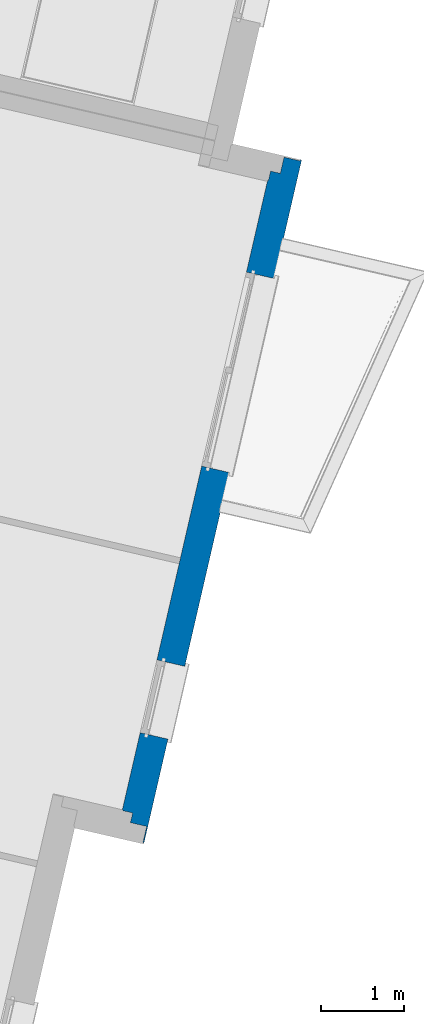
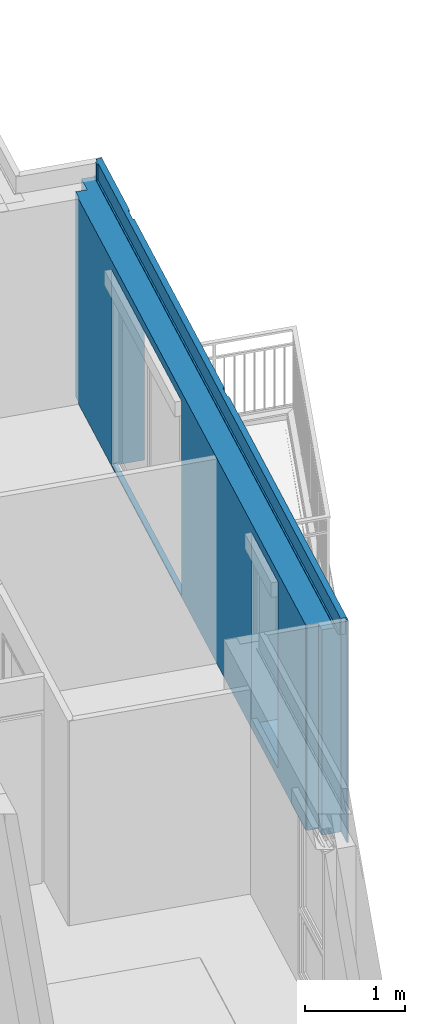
# One storey, part 24 of 91: 1 wall, 2 openings.
"""IFC2X3 building model written with IfcOpenShell, lengths in metres."""

from ifc_helpers import new_model, entity, si_unit, converted_unit, derived_unit, money_unit, direction, frame, origin_with_axes, place, context, subcontext, project, spatial, faceted_brep, material, material_list, type_object, element, save


model = new_model("IFC2X3")

# Units and contexts
model_context = context("Model", 3, precision=1e-05, world=origin_with_axes(), true_north=direction((0.0, 1.0)))
body_context = subcontext(model_context, "Body", "Model", "MODEL_VIEW")
ifc_project = project(units=[si_unit("LENGTHUNIT", "METRE"), si_unit("AREAUNIT", "SQUARE_METRE"), si_unit("VOLUMEUNIT", "CUBIC_METRE"), converted_unit("PLANEANGLEUNIT", "DEGREE", entity("IfcPlaneAngleMeasure", 0.0174532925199), si_unit("PLANEANGLEUNIT", "RADIAN"), dimensions=[0, 0, 0, 0, 0, 0, 0]), si_unit("SOLIDANGLEUNIT", "STERADIAN"), money_unit("EUR"), converted_unit("TIMEUNIT", "Year", entity("IfcTimeMeasure", 31556926.0), si_unit("TIMEUNIT", "SECOND"), dimensions=[0, 0, 1, 0, 0, 0, 0]), si_unit("MASSUNIT", "GRAM", prefix="KILO"), si_unit("THERMODYNAMICTEMPERATUREUNIT", "DEGREE_CELSIUS"), si_unit("LUMINOUSINTENSITYUNIT", "LUMEN"), si_unit("ENERGYUNIT", "JOULE", prefix="MEGA"), derived_unit("THERMALCONDUCTANCEUNIT", [(si_unit("POWERUNIT", "WATT"), 1), (si_unit("LENGTHUNIT", "METRE"), -1), (si_unit("THERMODYNAMICTEMPERATUREUNIT", "KELVIN"), -1)]), derived_unit("SPECIFICHEATCAPACITYUNIT", [(si_unit("ENERGYUNIT", "JOULE"), 1), (si_unit("MASSUNIT", "GRAM", prefix="KILO"), -1), (si_unit("THERMODYNAMICTEMPERATUREUNIT", "KELVIN"), -1)]), derived_unit("MASSDENSITYUNIT", [(si_unit("MASSUNIT", "GRAM", prefix="KILO"), 1), (si_unit("VOLUMEUNIT", "CUBIC_METRE"), -1)])], contexts=[model_context])

# Site, building, storey
site_placement = place(None, origin_with_axes())
site = spatial("IfcSite", under=ifc_project, at=site_placement, Name="Site", CompositionType="ELEMENT")
building_placement = place(site_placement, origin_with_axes())
building = spatial("IfcBuilding", under=site, at=building_placement, Name="Bâtiment", CompositionType="ELEMENT")
storey_placement = place(building_placement, frame((0.0, 0.0, 5.44), z_axis=(0.0, 0.0, 1.0), x_axis=(1.0, 0.0, 0.0)))
storey = spatial("IfcBuildingStorey", under=building, at=storey_placement, Name="R+2", CompositionType="ELEMENT", Elevation=5.44)

# Wall, openings
ifc_material_1 = material(Name="Finition ext - Crépis")
ifc_material_2 = material(Name="Béton cellulaire")
ifc_material_3 = material(Name="Mortier")
ifc_material_4 = material(Name="Isolation - Polystyrène expansé")
ifc_material_5 = material(Name="Bloc ELITHERM")
ifc_material_6 = material(Name="Isolation - Polystyrène extrudé")
ifc_material_7 = material(Name="Finition int - Plaque de plâtre")
ifc_material_list = material_list([ifc_material_1, ifc_material_2, ifc_material_3, ifc_material_4, ifc_material_5, ifc_material_6, ifc_material_7])
wall_type = type_object("IfcWallType", Name="Mur ALKERN + planelle 21 345 x 2720", PredefinedType="USERDEFINED")
wall_placement = place(storey_placement, frame((-1.22070172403, 2.38957520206, 0.0), z_axis=(0.0, 0.0, 1.0), x_axis=(-0.22487619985, -0.974387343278, 0.0)))
wall = element("IfcWall", 1, at=wall_placement, inside=storey, type_object=wall_type, material=ifc_material_list, Name="Mue bloc ALKERN isolé", ObjectType="SOLIDWALL", context=body_context, shape_type="Brep", body=[
    faceted_brep([(1.46826315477, 0.0, 0.02), (1.46826315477, 0.0, 0.0), (1.12826315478, 0.0, 0.0), (1.11828262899, 0.0, 0.0106237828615), (0.978243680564, 0.0, 0.0193762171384), (0.968263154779, 0.0, 0.01), (0.968263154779, 0.0, 0.0), (7.0035515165e-09, 0.0, 0.0), (7.0035515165e-09, 0.0, 2.72), (0.968263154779, 0.0, 2.72), (0.968263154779, 0.0, 2.51999999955), (0.968263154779, 0.0, 2.50999999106), (0.968263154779, 0.0, 2.50872065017), (0.968263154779, 0.0, 2.5), (0.983263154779, 0.0, 2.5), (1.00300413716, 0.0, 2.5), (1.12826315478, 0.0, 2.5), (1.12826315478, 0.0, 2.50872065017), (1.12826315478, 0.0, 2.50999999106), (1.12826315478, 0.0, 2.51999999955), (1.12826315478, 0.0, 2.72), (4.20826315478, 0.0, 2.72), (4.20826315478, 0.0, 2.51999999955), (4.20826315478, 0.0, 2.50999999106), (4.20826315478, 0.0, 2.50872065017), (4.20826315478, 0.0, 2.5), (4.33352217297, 0.0, 2.5), (4.35326315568, 0.0, 2.5), (4.36826315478, 0.0, 2.5), (4.36826315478, 0.0, 2.50872065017), (4.36826315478, 0.0, 2.50999999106), (4.36826315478, 0.0, 2.51999999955), (4.36826315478, 0.0, 2.72), (8.45160944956, 0.0, 2.72), (8.45160944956, 0.0, 2.51999999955), (8.45160944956, 0.0, 2.50999999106), (8.45160944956, 0.0, 0.0), (4.36826315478, 0.0, 0.0), (4.36826315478, 0.0, 0.01), (4.35828262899, 0.0, 0.0193762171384), (4.21824368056, 0.0, 0.0106237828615), (4.20826315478, 0.0, 0.0), (3.86826315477, 0.0, 0.0), (3.86826315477, 0.0, 0.02), (3.86826315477, 0.0, 2.22), (1.46826315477, 0.0, 2.22), (7.16748923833, 0.0, 0.06), (7.16748923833, 0.0, 0.12), (7.16748923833, 0.0, 2.22), (6.26748923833, 0.0, 2.22), (6.26748923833, 0.0, 0.12), (6.26748923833, 0.0, 0.06), (1.46826315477, -0.0149999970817, 0.02), (1.46826315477, -0.0149999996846, 0.0), (1.12826315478, -0.0150000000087, 0.0), (1.11828262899, -0.0150000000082, 0.0106237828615), (0.978243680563, -0.0150000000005, 0.0193762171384), (0.968263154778, -0.015, 0.01), (0.968263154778, -0.015, 0.0), (6.9957155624e-09, -0.0149999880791, 0.0), (6.9957155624e-09, -0.0149999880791, 2.72), (0.968263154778, -0.015, 2.72), (0.968263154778, -0.015, 2.51999999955), (0.968263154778, -0.015, 2.50999999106), (0.968263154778, -0.015, 2.50872065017), (0.968263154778, -0.015, 2.5), (0.983263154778, -0.0150000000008, 2.5), (1.00300413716, -0.0150000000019, 2.5), (1.12826315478, -0.0150000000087, 2.5), (1.12826315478, -0.0150000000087, 2.50872065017), (1.12826315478, -0.0150000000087, 2.50999999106), (1.12826315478, -0.0150000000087, 2.51999999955), (1.12826315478, -0.0150000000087, 2.72), (4.20826315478, -0.014999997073, 2.72), (4.20826315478, -0.014999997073, 2.51999999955), (4.20826315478, -0.014999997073, 2.50999999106), (4.20826315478, -0.014999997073, 2.50872065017), (4.20826315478, -0.014999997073, 2.5), (4.33352217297, -0.0149999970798, 2.5), (4.35326315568, -0.0149999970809, 2.5), (4.36826315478, -0.0149999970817, 2.5), (4.36826315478, -0.0149999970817, 2.50872065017), (4.36826315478, -0.0149999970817, 2.50999999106), (4.36826315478, -0.0149999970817, 2.51999999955), (4.36826315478, -0.0149999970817, 2.72), (8.45160944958, -0.0149999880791, 2.72), (8.45160944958, -0.0149999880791, 2.51999999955), (8.45160944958, -0.0149999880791, 2.50999999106), (8.45160944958, -0.0149999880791, 0.0), (4.36826315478, -0.0149999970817, 0.0), (4.36826315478, -0.0149999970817, 0.01), (4.35828262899, -0.0149999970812, 0.0193762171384), (4.21824368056, -0.0149999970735, 0.0106237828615), (4.20826315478, -0.014999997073, 0.0), (3.86826315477, -0.0149999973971, 0.0), (3.86826315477, -0.0149999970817, 0.02), (3.86826315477, -0.0149999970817, 2.22), (1.46826315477, -0.0149999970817, 2.22), (7.16748923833, -0.0149999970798, 0.06), (7.16748923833, -0.014999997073, 0.12), (7.16748923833, -0.014999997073, 2.22), (6.26748923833, -0.014999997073, 2.22), (6.26748923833, -0.014999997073, 0.12), (6.26748923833, -0.0149999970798, 0.06)], [[[0, 1, 2, 3, 4, 5, 6, 7, 8, 9, 10, 11, 12, 13, 14, 15, 16, 17, 18, 19, 20, 21, 22, 23, 24, 25, 26, 27, 28, 29, 30, 31, 32, 33, 34, 35, 36, 37, 38, 39, 40, 41, 42, 43, 44, 45], [46, 47, 48, 49, 50, 51]], [[1, 0, 52, 53]], [[1, 53, 54, 2]], [[55, 3, 2, 54]], [[56, 4, 3, 55]], [[57, 5, 4, 56]], [[58, 6, 5, 57]], [[7, 6, 58, 59]], [[7, 59, 60, 8]], [[60, 61, 9, 8]], [[62, 10, 9, 61]], [[11, 10, 62, 63]], [[12, 11, 63, 64]], [[13, 12, 64, 65]], [[66, 14, 13, 65]], [[15, 14, 66, 67]], [[16, 15, 67, 68]], [[68, 69, 17, 16]], [[69, 70, 18, 17]], [[70, 71, 19, 18]], [[71, 72, 20, 19]], [[72, 73, 21, 20]], [[74, 22, 21, 73]], [[23, 22, 74, 75]], [[24, 23, 75, 76]], [[25, 24, 76, 77]], [[78, 26, 25, 77]], [[27, 26, 78, 79]], [[28, 27, 79, 80]], [[80, 81, 29, 28]], [[81, 82, 30, 29]], [[82, 83, 31, 30]], [[83, 84, 32, 31]], [[33, 32, 84, 85]], [[86, 34, 33, 85]], [[35, 34, 86, 87]], [[36, 35, 87, 88]], [[88, 89, 37, 36]], [[90, 38, 37, 89]], [[91, 39, 38, 90]], [[92, 40, 39, 91]], [[92, 93, 41, 40]], [[94, 42, 41, 93]], [[95, 43, 42, 94]], [[43, 95, 96, 44]], [[44, 96, 97, 45]], [[52, 0, 45, 97]], [[46, 98, 99, 47]], [[100, 48, 47, 99]], [[101, 49, 48, 100]], [[49, 101, 102, 50]], [[102, 103, 51, 50]], [[103, 98, 46, 51]], [[53, 52, 97, 96, 95, 94, 93, 92, 91, 90, 89, 88, 87, 86, 85, 84, 83, 82, 81, 80, 79, 78, 77, 76, 75, 74, 73, 72, 71, 70, 69, 68, 67, 66, 65, 64, 63, 62, 61, 60, 59, 58, 57, 56, 55, 54], [103, 102, 101, 100, 99, 98]]]),
    faceted_brep([(0.0149999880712, -0.015, 2.51999999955), (0.0149999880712, -0.015, 2.72), (8.40360943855, -0.015, 2.72), (8.40360943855, -0.015, 2.51999999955), (0.0149999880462, -0.0629999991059, 2.72), (0.0149999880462, -0.0629999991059, 2.51999999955), (8.4036094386, -0.0629999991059, 2.72), (8.4036094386, -0.0629999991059, 2.51999999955)], [[[0, 1, 2, 3]], [[4, 1, 0, 5]], [[1, 4, 6, 2]], [[3, 2, 6, 7]], [[5, 0, 3, 7]], [[4, 5, 7, 6]]]),
    faceted_brep([(0.0149999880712, -0.015, 2.50999999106), (0.0149999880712, -0.015, 2.51999999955), (8.38360943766, -0.015, 2.52), (8.38360943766, -0.015, 2.51), (0.0149999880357, -0.083, 2.51999999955), (0.0149999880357, -0.083, 2.50999999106), (8.38360943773, -0.083, 2.52), (8.38360943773, -0.083, 2.51)], [[[0, 1, 2, 3]], [[4, 1, 0, 5]], [[1, 4, 6, 2]], [[3, 2, 6, 7]], [[5, 0, 3, 7]], [[4, 5, 7, 6]]]),
    faceted_brep([(0.0999380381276, -0.0649033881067, 2.72), (8.38360943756, -0.0649033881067, 2.72), (8.38360943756, -0.0630000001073, 2.72), (0.062999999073, -0.0630000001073, 2.72), (0.0629999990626, -0.083000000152, 2.72), (0.0999380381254, -0.083000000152, 2.72), (0.0999380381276, -0.0649033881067, 2.51999999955), (8.38360943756, -0.0649033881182, 2.51999999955), (8.38360943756, -0.0630000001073, 2.51999999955), (0.062999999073, -0.0630000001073, 2.51999999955), (0.0629999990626, -0.083000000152, 2.51999999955), (0.0999380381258, -0.0830000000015, 2.51999999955)], [[[0, 1, 2, 3, 4, 5]], [[1, 0, 6, 7]], [[1, 7, 8, 2]], [[8, 9, 3, 2]], [[10, 4, 3, 9]], [[11, 5, 4, 10]], [[0, 5, 11, 6]], [[6, 11, 10, 9, 8, 7]]]),
    faceted_brep([(1.46826315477, -0.015, 0.02), (1.46826315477, -0.015, 0.0), (0.0149999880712, -0.015, 0.0), (0.0149999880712, -0.015, 2.50999999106), (8.2516094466, -0.015, 2.50999999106), (8.2516094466, -0.015, 0.0), (3.86826315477, -0.015, 0.0), (3.86826315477, -0.015, 0.02), (3.86826315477, -0.015, 2.22), (1.46826315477, -0.015, 2.22), (7.16748923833, -0.015, 0.06), (7.16748923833, -0.015, 0.12), (7.16748923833, -0.015, 2.22), (6.26748923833, -0.015, 2.22), (6.26748923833, -0.015, 0.12), (6.26748923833, -0.015, 0.06), (1.46826315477, -0.214999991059, 0.02), (1.46826315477, -0.214999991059, 0.0), (1.46826315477, -0.214999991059, 2.22), (0.0149999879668, -0.214999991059, 0.0), (0.0149999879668, -0.214999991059, 2.50999999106), (0.0149999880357, -0.0829999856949, 2.50999999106), (8.25160944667, -0.0829999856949, 2.50999999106), (8.25160944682, -0.214999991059, 2.50999999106), (8.25160944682, -0.214999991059, 0.0), (3.86826315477, -0.214999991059, 0.0), (3.86826315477, -0.214999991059, 0.02), (3.86826315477, -0.214999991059, 2.22), (7.16748923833, -0.214999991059, 0.06), (7.16748923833, -0.214999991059, 0.12), (7.16748923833, -0.214999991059, 2.22), (6.26748923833, -0.214999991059, 2.22), (6.26748923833, -0.214999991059, 0.12), (6.26748923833, -0.214999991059, 0.06)], [[[0, 1, 2, 3, 4, 5, 6, 7, 8, 9], [10, 11, 12, 13, 14, 15]], [[16, 17, 1, 0, 9, 18]], [[1, 17, 19, 2]], [[19, 20, 21, 3, 2]], [[3, 21, 22, 4]], [[23, 24, 5, 4, 22]], [[25, 6, 5, 24]], [[7, 6, 25, 26, 27, 8]], [[8, 27, 18, 9]], [[11, 10, 28, 29, 30, 12]], [[31, 13, 12, 30]], [[32, 33, 15, 14, 13, 31]], [[33, 28, 10, 15]], [[17, 16, 18, 27, 26, 25, 24, 23, 20, 19], [33, 32, 31, 30, 29, 28]], [[21, 20, 23, 22]]]),
    faceted_brep([(1.46826315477, -0.245, 0.02), (1.46826315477, -0.215000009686, 0.02), (1.46826315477, -0.215, 2.22), (1.46826315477, -0.245, 2.22), (1.46826315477, -0.215000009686, 0.0), (1.46826315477, -0.286, 0.02), (1.46826315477, -0.286, 0.0), (3.86826315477, -0.215000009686, 0.0), (3.86826315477, -0.215000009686, 0.02), (3.86826315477, -0.215, 2.22), (3.86826315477, -0.215, 2.4), (1.46826315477, -0.215, 2.4), (0.214999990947, -0.215000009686, 0.0), (0.214999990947, -0.215000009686, 2.50999999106), (8.13160942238, -0.215000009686, 2.51), (8.13160942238, -0.215000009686, 0.0), (6.26748923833, -0.215, 2.4), (6.26748923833, -0.215, 2.22), (6.26748923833, -0.215000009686, 0.12), (6.26748923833, -0.215000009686, 0.06), (7.16748923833, -0.215000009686, 0.06), (7.16748923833, -0.215000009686, 0.12), (7.16748923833, -0.215, 2.22), (7.16748923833, -0.215, 2.4), (1.46826315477, -0.335000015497, 2.4), (1.46826315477, -0.335000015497, 2.22), (1.46826315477, -0.335000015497, 0.02), (3.86826315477, -0.286, 0.02), (3.86826315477, -0.286, 0.0), (8.13160942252, -0.335000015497, 0.0), (0.214999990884, -0.335000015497, 0.0), (3.86826315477, -0.245, 0.02), (3.86826315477, -0.245, 2.22), (3.86826315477, -0.335000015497, 2.22), (3.86826315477, -0.335000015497, 2.4), (0.214999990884, -0.335000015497, 2.50999999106), (8.13160942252, -0.335000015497, 2.51), (6.26748923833, -0.335000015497, 2.4), (6.26748923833, -0.335000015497, 2.22), (6.26748923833, -0.245, 2.22), (6.26748923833, -0.245, 0.12), (6.26748923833, -0.286, 0.12), (6.26748923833, -0.286, 0.06), (7.16748923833, -0.286, 0.06), (7.16748923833, -0.286, 0.12), (7.16748923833, -0.245, 0.12), (7.16748923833, -0.245, 2.22), (7.16748923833, -0.335000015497, 2.22), (7.16748923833, -0.335000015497, 2.4), (6.26748923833, -0.335000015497, 0.12), (7.16748923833, -0.335000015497, 0.12), (3.86826315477, -0.335000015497, 0.02)], [[[0, 1, 2, 3]], [[4, 1, 0, 5, 6]], [[7, 8, 9, 10, 11, 2, 1, 4, 12, 13, 14, 15], [16, 17, 18, 19, 20, 21, 22, 23]], [[24, 25, 3, 2, 11]], [[5, 0, 3, 25, 26]], [[5, 27, 28, 6]], [[28, 7, 15, 29, 30, 12, 4, 6]], [[31, 8, 7, 28, 27]], [[8, 31, 32, 9]], [[32, 33, 34, 10, 9]], [[10, 34, 24, 11]], [[30, 35, 13, 12]], [[14, 13, 35, 36]], [[29, 15, 14, 36]], [[17, 16, 37, 38, 39]], [[40, 18, 17, 39]], [[41, 42, 19, 18, 40]], [[20, 19, 42, 43]], [[43, 44, 45, 21, 20]], [[21, 45, 46, 22]], [[23, 22, 46, 47, 48]], [[23, 48, 37, 16]], [[36, 35, 30, 29], [49, 38, 37, 48, 47, 50], [26, 25, 24, 34, 33, 51]], [[27, 5, 26, 51]], [[31, 27, 51, 33, 32]], [[38, 49, 41, 40, 39]], [[41, 44, 43, 42]], [[47, 46, 45, 44, 50]], [[44, 41, 49, 50]]]),
    faceted_brep([(8.12160945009, -0.335000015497, 0.0), (0.335000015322, -0.335000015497, 0.0), (0.335000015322, -0.335000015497, 2.51), (8.12160945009, -0.335000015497, 2.51), (7.16748923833, -0.335000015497, 2.22), (7.16748923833, -0.335000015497, 2.4), (6.26748923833, -0.335000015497, 2.4), (6.26748923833, -0.335000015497, 2.22), (6.26748923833, -0.335000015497, 0.12), (7.16748923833, -0.335000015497, 0.12), (3.86826315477, -0.335000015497, 2.22), (3.86826315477, -0.335000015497, 2.4), (1.46826315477, -0.335000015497, 2.4), (1.46826315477, -0.335000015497, 2.22), (1.46826315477, -0.335000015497, 0.02), (3.86826315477, -0.335000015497, 0.02), (8.1216094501, -0.34499998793, 0.0), (0.335000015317, -0.34499998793, 0.0), (0.335000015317, -0.34499998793, 2.51), (8.1216094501, -0.34499998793, 2.51), (7.16748923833, -0.34499998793, 2.22), (7.16748923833, -0.34499998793, 2.4), (6.26748923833, -0.34499998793, 2.4), (6.26748923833, -0.34499998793, 2.22), (6.26748923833, -0.34499998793, 0.12), (7.16748923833, -0.34499998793, 0.12), (3.86826315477, -0.34499998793, 2.22), (3.86826315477, -0.34499998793, 2.4), (1.46826315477, -0.34499998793, 2.4), (1.46826315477, -0.34499998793, 2.22), (1.46826315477, -0.34499998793, 0.02), (3.86826315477, -0.34499998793, 0.02)], [[[0, 1, 2, 3], [4, 5, 6, 7, 8, 9], [10, 11, 12, 13, 14, 15]], [[16, 17, 1, 0]], [[17, 18, 2, 1]], [[3, 2, 18, 19]], [[16, 0, 3, 19]], [[20, 21, 5, 4]], [[21, 22, 6, 5]], [[22, 23, 7, 6]], [[24, 8, 7, 23]], [[25, 9, 8, 24]], [[9, 25, 20, 4]], [[11, 10, 26, 27]], [[12, 11, 27, 28]], [[13, 12, 28, 29]], [[13, 29, 30, 14]], [[14, 30, 31, 15]], [[26, 10, 15, 31]], [[19, 18, 17, 16], [21, 20, 25, 24, 23, 22], [27, 26, 31, 30, 29, 28]]]),
])
opening_1_placement = place(wall_placement, frame((6.71748923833, 0.0, 0.12), z_axis=(0.0, 0.0, 1.0), x_axis=(1.0, 0.0, 0.0)))
element("IfcOpeningElement", 2, at=opening_1_placement, cuts=wall, Name="MEN 65", context=body_context, shape_type="Brep", body=[
    faceted_brep([(-0.45, -0.83499998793, 0.0), (-0.45, -0.83499998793, 2.1), (-0.45, -0.245, 2.1), (-0.45, -0.245, 0.0), (0.45, -0.83499998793, 0.0), (0.45, -0.83499998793, 2.1), (0.45, -0.245, 2.1), (0.45, -0.245, 0.0)], [[[0, 1, 2, 3]], [[0, 4, 5, 1]], [[1, 5, 6, 2]], [[3, 2, 6, 7]], [[4, 0, 3, 7]], [[5, 4, 7, 6]]]),
    faceted_brep([(-0.45, 0.34499998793, 0.0), (0.45, 0.34499998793, 0.0), (0.45, -0.245, 0.0), (-0.45, -0.245, 0.0), (-0.45, 0.34499998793, 2.1), (0.45, 0.34499998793, 2.1), (0.45, -0.245, 2.1), (-0.45, -0.245, 2.1)], [[[0, 1, 2, 3]], [[0, 4, 5, 1]], [[1, 5, 6, 2]], [[3, 2, 6, 7]], [[4, 0, 3, 7]], [[5, 4, 7, 6]]]),
    faceted_brep([(-0.45, 0.34499998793, 0.0), (0.45, 0.34499998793, 0.0), (0.45, -0.245, 0.0), (-0.45, -0.245, 0.0), (-0.45, 0.34499998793, 2.1), (0.45, 0.34499998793, 2.1), (0.45, -0.245, 2.1), (-0.45, -0.245, 2.1)], [[[0, 1, 2, 3]], [[0, 4, 5, 1]], [[1, 5, 6, 2]], [[3, 2, 6, 7]], [[4, 0, 3, 7]], [[5, 4, 7, 6]]]),
    faceted_brep([(-0.45, -0.80499998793, 2.1), (-0.45, -0.80499998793, 2.28), (-0.45, -0.215, 2.28), (-0.45, -0.215, 2.1), (0.45, -0.80499998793, 2.1), (0.45, -0.80499998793, 2.28), (0.45, -0.215, 2.28), (0.45, -0.215, 2.1)], [[[0, 1, 2, 3]], [[0, 4, 5, 1]], [[1, 5, 6, 2]], [[3, 2, 6, 7]], [[4, 0, 3, 7]], [[5, 4, 7, 6]]]),
    faceted_brep([(-0.45, 0.30399998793, 0.0), (-0.45, 0.30399998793, -0.06), (-0.45, -0.286, -0.06), (-0.45, -0.286, 0.0), (0.45, 0.30399998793, 0.0), (0.45, 0.30399998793, -0.06), (0.45, -0.286, -0.06), (0.45, -0.286, 0.0)], [[[0, 1, 2, 3]], [[0, 4, 5, 1]], [[1, 5, 6, 2]], [[3, 2, 6, 7]], [[4, 0, 3, 7]], [[5, 4, 7, 6]]]),
])
opening_2_placement = place(wall_placement, frame((2.66826315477, 0.0, 0.02), z_axis=(0.0, 0.0, 1.0), x_axis=(1.0, 0.0, 0.0)))
element("IfcOpeningElement", 3, at=opening_2_placement, cuts=wall, Name="MEN 66", context=body_context, shape_type="Brep", body=[
    faceted_brep([(-1.2, -0.245, 0.0), (1.2, -0.245, 0.0), (1.2, -0.83499998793, 0.0), (-1.2, -0.83499998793, 0.0), (-1.2, -0.245, 2.2), (1.2, -0.245, 2.2), (1.2, -0.83499998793, 2.2), (-1.2, -0.83499998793, 2.2)], [[[0, 1, 2, 3]], [[0, 4, 5, 1]], [[1, 5, 6, 2]], [[3, 2, 6, 7]], [[4, 0, 3, 7]], [[5, 4, 7, 6]]]),
    faceted_brep([(-1.2, -0.245, 0.0), (-1.2, -0.245, 2.2), (-1.2, 0.34499998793, 2.2), (-1.2, 0.34499998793, 0.0), (1.2, -0.245, 0.0), (1.2, -0.245, 2.2), (1.2, 0.34499998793, 2.2), (1.2, 0.34499998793, 0.0)], [[[0, 1, 2, 3]], [[0, 4, 5, 1]], [[1, 5, 6, 2]], [[3, 2, 6, 7]], [[4, 0, 3, 7]], [[5, 4, 7, 6]]]),
    faceted_brep([(-1.2, -0.245, 0.0), (-1.2, -0.245, 2.2), (-1.2, 0.34499998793, 2.2), (-1.2, 0.34499998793, 0.0), (1.2, -0.245, 0.0), (1.2, -0.245, 2.2), (1.2, 0.34499998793, 2.2), (1.2, 0.34499998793, 0.0)], [[[0, 1, 2, 3]], [[0, 4, 5, 1]], [[1, 5, 6, 2]], [[3, 2, 6, 7]], [[4, 0, 3, 7]], [[5, 4, 7, 6]]]),
    faceted_brep([(-1.2, -0.215, 2.2), (1.2, -0.215, 2.2), (1.2, -0.80499998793, 2.2), (-1.2, -0.80499998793, 2.2), (-1.2, -0.215, 2.38), (1.2, -0.215, 2.38), (1.2, -0.80499998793, 2.38), (-1.2, -0.80499998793, 2.38)], [[[0, 1, 2, 3]], [[0, 4, 5, 1]], [[1, 5, 6, 2]], [[3, 2, 6, 7]], [[4, 0, 3, 7]], [[5, 4, 7, 6]]]),
    faceted_brep([(-1.2, -0.286, 0.0), (1.2, -0.286, 0.0), (1.2, 0.30399998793, 0.0), (-1.2, 0.30399998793, 0.0), (-1.2, -0.286, -0.06), (1.2, -0.286, -0.06), (1.2, 0.30399998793, -0.06), (-1.2, 0.30399998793, -0.06)], [[[0, 1, 2, 3]], [[0, 4, 5, 1]], [[1, 5, 6, 2]], [[3, 2, 6, 7]], [[4, 0, 3, 7]], [[5, 4, 7, 6]]]),
])

save(model, "model.ifc")
